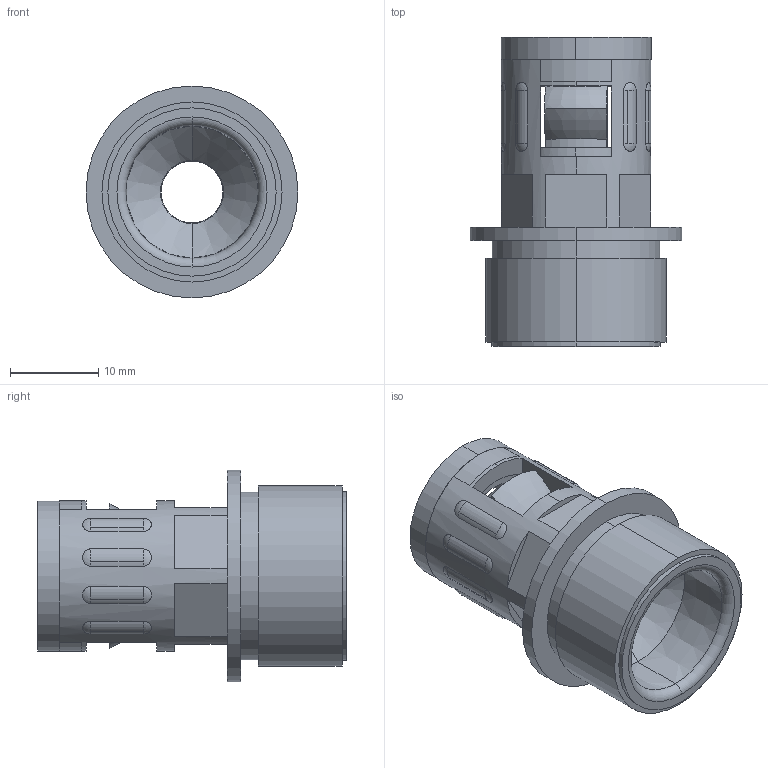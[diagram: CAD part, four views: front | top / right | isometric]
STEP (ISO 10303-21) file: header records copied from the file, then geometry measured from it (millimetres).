
FILE_DESCRIPTION (( 'STEP AP203' ), '1' );
FILE_NAME ('WQG-P13.5-AD10.0.STEP', '2020-03-12T00:55:34', ( '' ), ( '' ), 'SwSTEP 2.0', 'SolidWorks 2016', '' );
FILE_SCHEMA (( 'CONFIG_CONTROL_DESIGN' ));
Length unit declared in the file: millimetre
Products named in the file (4): NSK-AD10.0; WQG-P13.5-AD10.0-01; WQG-P13.5-AD10.0; GFD-AD10.0
Assembly tree (3 placements, depth 2):
  WQG-P13.5-AD10.0
    WQG-P13.5-AD10.0-01
    GFD-AD10.0
    NSK-AD10.0
Bounding box: 24 x 35 x 24 mm (x, y, z)
Volume: 4485.6 mm3; surface area: 6587.2 mm2
Topology: 3 solids, 6 shells, 191 faces, 497 edges, 308 vertices
Faces by surface type: plane 56, cone 55, cylinder 42, torus 22, sphere 16
Entity records: 6563 total; most frequent: CARTESIAN_POINT 1586, DIRECTION 1018, ORIENTED_EDGE 926, EDGE_CURVE 465, AXIS2_PLACEMENT_3D 427, VERTEX_POINT 292, CIRCLE 229, EDGE_LOOP 214
